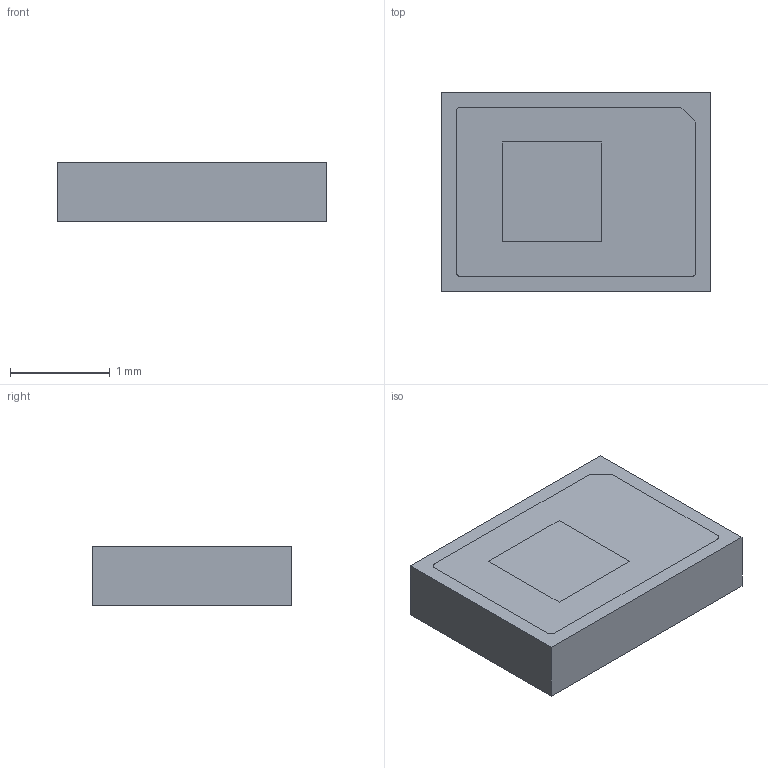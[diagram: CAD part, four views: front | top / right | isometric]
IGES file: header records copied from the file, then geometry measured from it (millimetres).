
Start section: SolidWorks IGES file using analytic representation for surfaces
Global section: file name: C:\Users\user\Desktop\SW22\ヶ蚾陬腑3D恅璃\LRJ.IGS; native system: SolidWorks 2022; preprocessor: SolidWorks 2022; author: user; date: 240125.032037; units: millimetre
Bounding box: 2.7 x 2 x 0.6 mm (x, y, z)
Surface area: 16.4 mm2 (no closed solid volume)
Topology: 0 solids, 0 shells, 10 faces, 70 edges, 70 vertices
Faces by surface type: bspline 10
